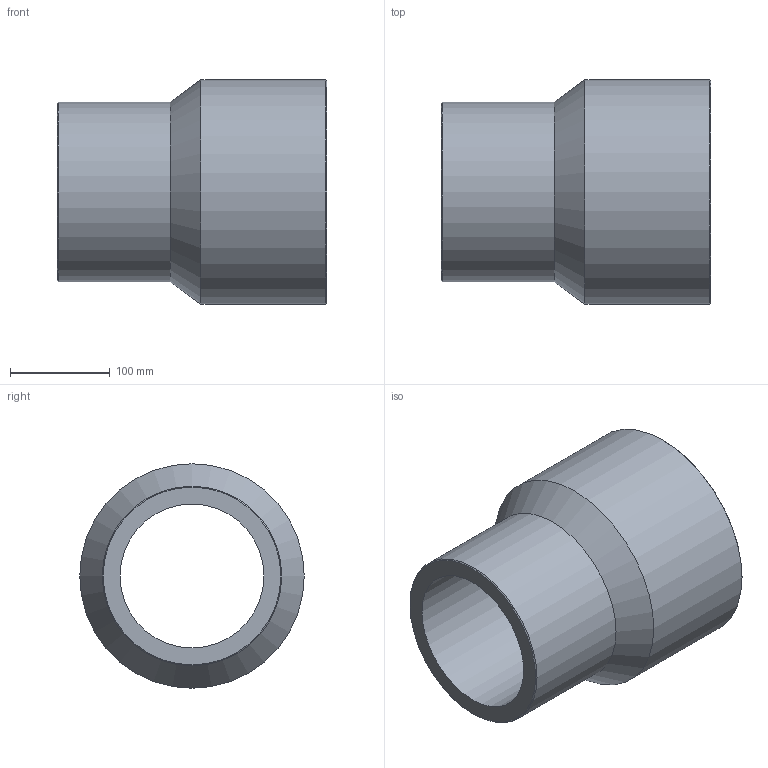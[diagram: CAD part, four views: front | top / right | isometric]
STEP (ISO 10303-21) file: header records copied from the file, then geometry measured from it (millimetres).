
FILE_DESCRIPTION(/* description */ ('Unknown'),/* implementation_level */ '2;1');
FILE_NAME(/* name */ 'RP225180G',/* time_stamp */ '2021-09-16T17:18:00+02:00',/* author */ ('Unknown'),/* organization */ ('Unknown'),/* preprocessor_version */ 'ST-DEVELOPER v16.7',/* originating_system */ 'Solid Edge',/* authorisation */ 'Unknown');
FILE_SCHEMA (('AUTOMOTIVE_DESIGN {1 0 10303 214 3 1 1}'));
Length unit declared in the file: millimetre
Products named in the file (1): RP225180G
Bounding box: 270 x 225 x 225 mm (x, y, z)
Volume: 3484758.8 mm3; surface area: 337967.9 mm2
Topology: 1 solids, 1 shells, 10 faces, 19 edges, 11 vertices
Faces by surface type: cylinder 4, cone 4, plane 2
Full cylindrical faces by diameter (mm): 144.2 x1, 174.6 x1, 180 x1, 225 x1
Entity records: 238 total; most frequent: DIRECTION 42, CARTESIAN_POINT 31, AXIS2_PLACEMENT_3D 21, ORIENTED_EDGE 20, EDGE_LOOP 20, FACE_BOUND 20, EDGE_CURVE 10, VERTEX_POINT 10
